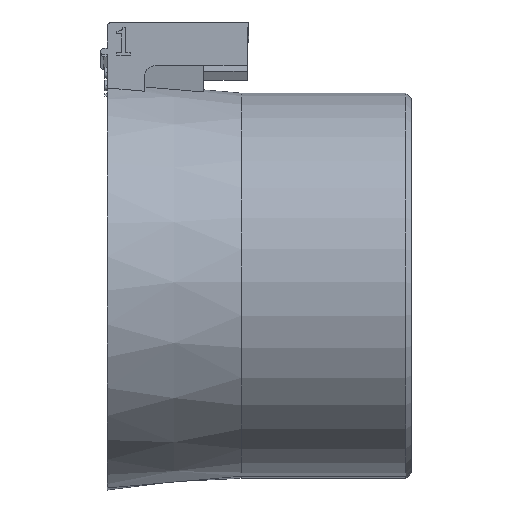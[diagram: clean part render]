
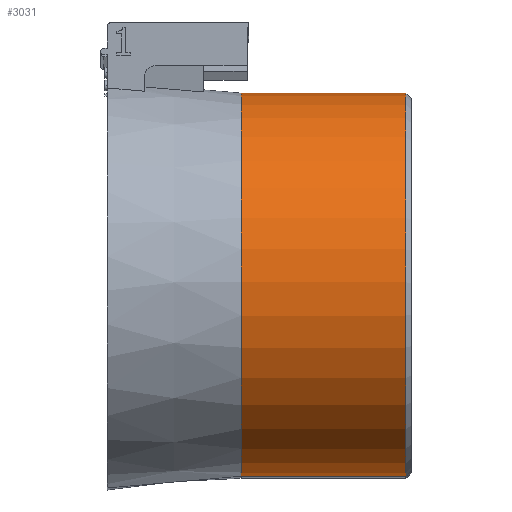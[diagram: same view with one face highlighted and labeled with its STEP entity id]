
A CAD part, front view. The second image highlights one B-rep face of the part: STEP entity #3031.
In plain terms, the highlighted cylindrical face has radius 17.5 mm (diameter 35 mm), a partial arc.
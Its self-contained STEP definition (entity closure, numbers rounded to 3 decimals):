
#59=CYLINDRICAL_SURFACE('',#3223,17.5);
#99=CIRCLE('',#3205,17.5);
#105=CIRCLE('',#3220,17.5);
#465=FACE_OUTER_BOUND('',#637,.T.);
#637=EDGE_LOOP('',(#2724,#2725,#2726,#2727));
#862=LINE('',#5168,#1140);
#880=LINE('',#5208,#1158);
#1140=VECTOR('',#3654,10.);
#1158=VECTOR('',#3682,10.);
#1437=VERTEX_POINT('',#5165);
#1438=VERTEX_POINT('',#5167);
#1454=VERTEX_POINT('',#5206);
#1455=VERTEX_POINT('',#5207);
#1827=EDGE_CURVE('',#1438,#1437,#862,.T.);
#1847=EDGE_CURVE('',#1454,#1455,#880,.T.);
#1890=EDGE_CURVE('',#1438,#1455,#99,.T.);
#1900=EDGE_CURVE('',#1454,#1437,#105,.T.);
#2724=ORIENTED_EDGE('',*,*,#1847,.T.);
#2725=ORIENTED_EDGE('',*,*,#1890,.F.);
#2726=ORIENTED_EDGE('',*,*,#1827,.T.);
#2727=ORIENTED_EDGE('',*,*,#1900,.F.);
#3031=ADVANCED_FACE('',(#465),#59,.T.);
#3205=AXIS2_PLACEMENT_3D('',#5296,#3782,#3783);
#3220=AXIS2_PLACEMENT_3D('',#5317,#3816,#3817);
#3223=AXIS2_PLACEMENT_3D('',#5329,#3824,#3825);
#3654=DIRECTION('',(-1.,0.,0.));
#3682=DIRECTION('',(1.,0.,0.));
#3782=DIRECTION('center_axis',(1.,0.,0.));
#3783=DIRECTION('ref_axis',(0.,1.,0.));
#3816=DIRECTION('center_axis',(-1.,0.,0.));
#3817=DIRECTION('ref_axis',(0.,-1.,0.));
#3824=DIRECTION('center_axis',(-1.,0.,0.));
#3825=DIRECTION('ref_axis',(0.,-1.,0.));
#5165=CARTESIAN_POINT('',(11.43,0.,17.5));
#5167=CARTESIAN_POINT('',(26.5,0.,17.5));
#5168=CARTESIAN_POINT('',(19.215,0.,17.5));
#5206=CARTESIAN_POINT('',(11.43,-0.402,-17.495));
#5207=CARTESIAN_POINT('',(26.5,-0.402,-17.495));
#5208=CARTESIAN_POINT('',(19.215,-0.402,-17.495));
#5296=CARTESIAN_POINT('Origin',(26.5,0.,
0.));
#5317=CARTESIAN_POINT('Origin',(11.43,0.,0.));
#5329=CARTESIAN_POINT('Origin',(19.215,0.,
0.));
